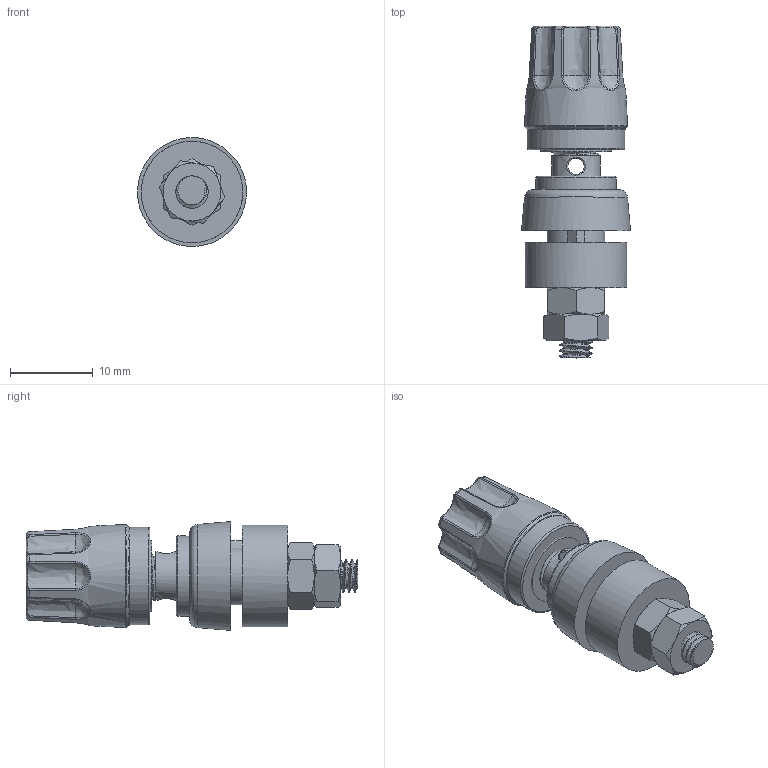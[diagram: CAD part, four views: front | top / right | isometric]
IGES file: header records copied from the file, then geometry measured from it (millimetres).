
Global section: file name: Hirschmann PKI 10 A Banana plug v16; native system: unknown; preprocessor: unknown; author: lodderj; organization: unknown; date: 20171015.204326; units: millimetre
Bounding box: 13.2 x 40.2 x 13.18 mm (x, y, z)
Volume: 3275.4 mm3; surface area: 4003.8 mm2
Topology: 7 solids, 7 shells, 172 faces, 404 edges, 252 vertices
Faces by surface type: bspline 172
